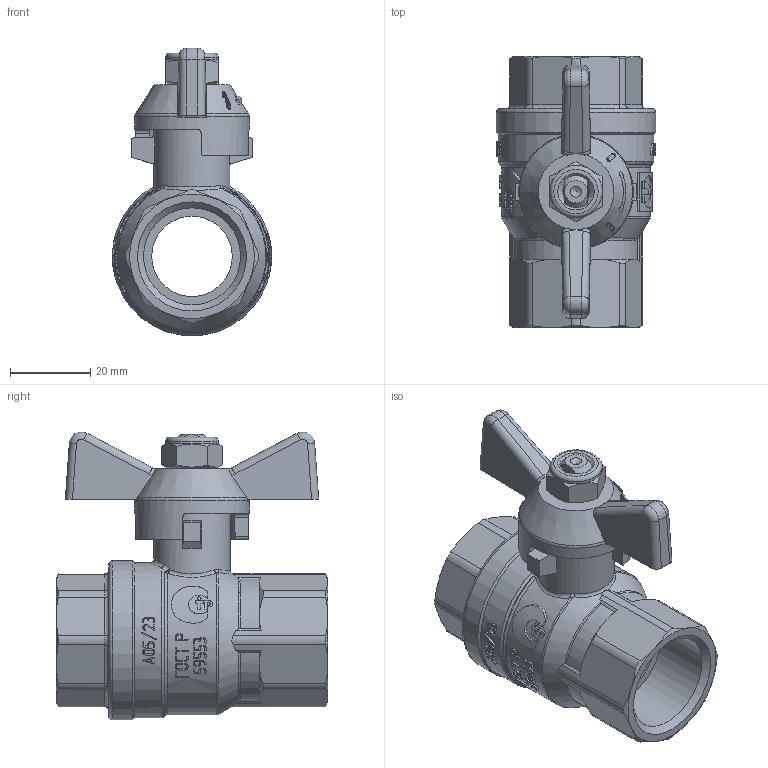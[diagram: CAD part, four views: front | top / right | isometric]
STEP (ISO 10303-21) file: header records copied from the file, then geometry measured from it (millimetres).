
FILE_DESCRIPTION(('STEP AP203'), '1');
FILE_NAME('VT.417.N.05', '2026-04-29T08:51:38', ('User'), ('Vesta'), 'C3D Converter', 'C3D Toolkit', '');
FILE_SCHEMA(('CONFIG_CONTROL_DESIGN'));
Length unit declared in the file: millimetre
Products named in the file (1): ВР.491812.007.000 СБ
Bounding box: 39.6 x 67.5 x 71.6 mm (x, y, z)
Volume: 52066.1 mm3; surface area: 19477 mm2
Topology: 1 solids, 3 shells, 1173 faces, 3244 edges, 2128 vertices
Faces by surface type: extrusion 550, plane 386, cylinder 123, cone 53, torus 31, bspline 28, sphere 2
Full cylindrical faces by diameter (mm): 0.816 x1, 4 x1, 13 x1, 19 x1, 20 x3, 21 x2, 24.118 x2, 28.5 x1, 38.6 x1, 39.6 x1
Entity records: 55600 total; most frequent: CARTESIAN_POINT 28690, ORIENTED_EDGE 6416, DIRECTION 3846, EDGE_CURVE 3208, VERTEX_POINT 2127, B_SPLINE_CURVE_WITH_KNOTS 1958, VECTOR 1766, EDGE_LOOP 1265
